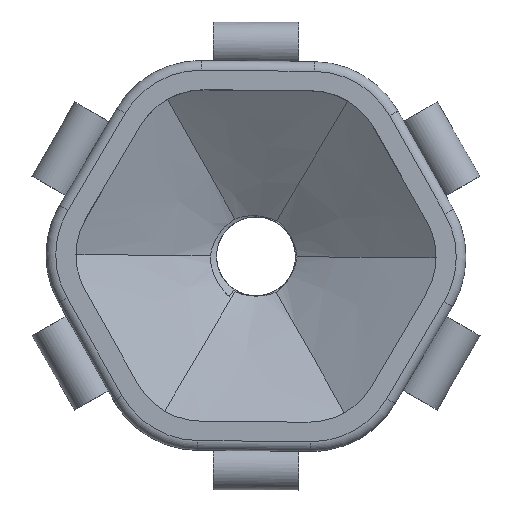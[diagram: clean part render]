
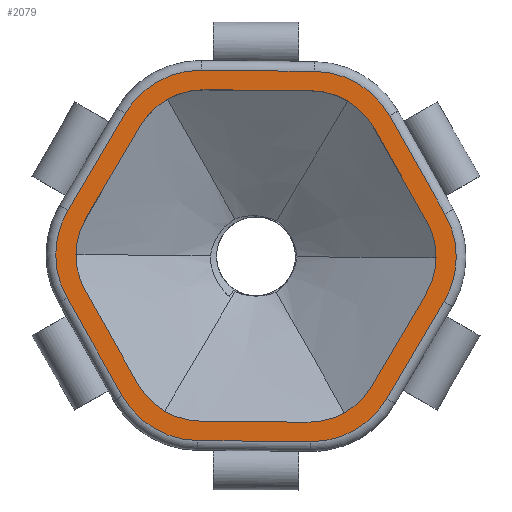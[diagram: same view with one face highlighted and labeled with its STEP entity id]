
A CAD part, top view. The second image highlights one B-rep face of the part: STEP entity #2079.
In plain terms, the highlighted planar face has unit normal (0, 0, 1).
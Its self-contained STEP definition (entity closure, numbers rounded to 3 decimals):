
#88=FACE_BOUND('',#372,.T.);
#118=PLANE('',#2290);
#236=FACE_OUTER_BOUND('',#371,.T.);
#371=EDGE_LOOP('',(#1830,#1831,#1832,#1833,#1834,#1835,#1836,#1837,#1838,
#1839,#1840,#1841));
#372=EDGE_LOOP('',(#1842,#1843,#1844,#1845,#1846,#1847,#1848,#1849,#1850,
#1851,#1852,#1853));
#573=CIRCLE('',#2233,7.5);
#574=CIRCLE('',#2236,7.5);
#575=CIRCLE('',#2239,7.5);
#576=CIRCLE('',#2242,7.5);
#577=CIRCLE('',#2245,7.5);
#578=CIRCLE('',#2248,7.5);
#587=CIRCLE('',#2266,9.);
#589=CIRCLE('',#2269,9.);
#591=CIRCLE('',#2272,9.);
#593=CIRCLE('',#2275,9.);
#595=CIRCLE('',#2278,9.);
#598=CIRCLE('',#2282,9.);
#617=LINE('',#5430,#707);
#626=LINE('',#5476,#716);
#635=LINE('',#5522,#725);
#644=LINE('',#5568,#734);
#653=LINE('',#5614,#743);
#657=LINE('',#5817,#747);
#662=LINE('',#5828,#752);
#665=LINE('',#5836,#755);
#668=LINE('',#5858,#758);
#671=LINE('',#5887,#761);
#682=LINE('',#5945,#772);
#688=LINE('',#5978,#778);
#707=VECTOR('',#2449,10.);
#716=VECTOR('',#2486,10.);
#725=VECTOR('',#2523,10.);
#734=VECTOR('',#2560,10.);
#743=VECTOR('',#2597,10.);
#747=VECTOR('',#2609,10.);
#752=VECTOR('',#2620,10.);
#755=VECTOR('',#2629,10.);
#758=VECTOR('',#2638,10.);
#761=VECTOR('',#2647,10.);
#772=VECTOR('',#2692,10.);
#778=VECTOR('',#2752,10.);
#886=VERTEX_POINT('',#5427);
#887=VERTEX_POINT('',#5429);
#900=VERTEX_POINT('',#5473);
#901=VERTEX_POINT('',#5475);
#914=VERTEX_POINT('',#5519);
#915=VERTEX_POINT('',#5521);
#928=VERTEX_POINT('',#5565);
#929=VERTEX_POINT('',#5567);
#942=VERTEX_POINT('',#5611);
#943=VERTEX_POINT('',#5613);
#947=VERTEX_POINT('',#5627);
#948=VERTEX_POINT('',#5629);
#953=VERTEX_POINT('',#5816);
#954=VERTEX_POINT('',#5820);
#955=VERTEX_POINT('',#5822);
#956=VERTEX_POINT('',#5826);
#957=VERTEX_POINT('',#5830);
#958=VERTEX_POINT('',#5834);
#960=VERTEX_POINT('',#5845);
#962=VERTEX_POINT('',#5856);
#965=VERTEX_POINT('',#5868);
#967=VERTEX_POINT('',#5885);
#980=VERTEX_POINT('',#5942);
#981=VERTEX_POINT('',#5944);
#1133=EDGE_CURVE('',#886,#887,#617,.T.);
#1152=EDGE_CURVE('',#900,#901,#626,.T.);
#1171=EDGE_CURVE('',#914,#915,#635,.T.);
#1190=EDGE_CURVE('',#928,#929,#644,.T.);
#1209=EDGE_CURVE('',#942,#943,#653,.T.);
#1214=EDGE_CURVE('',#947,#948,#573,.T.);
#1223=EDGE_CURVE('',#953,#948,#657,.T.);
#1226=EDGE_CURVE('',#954,#955,#574,.T.);
#1229=EDGE_CURVE('',#954,#956,#662,.T.);
#1231=EDGE_CURVE('',#957,#956,#575,.T.);
#1233=EDGE_CURVE('',#957,#958,#665,.T.);
#1236=EDGE_CURVE('',#960,#958,#576,.T.);
#1239=EDGE_CURVE('',#960,#962,#668,.T.);
#1242=EDGE_CURVE('',#965,#962,#577,.T.);
#1246=EDGE_CURVE('',#965,#967,#671,.T.);
#1247=EDGE_CURVE('',#953,#967,#578,.T.);
#1269=EDGE_CURVE('',#980,#981,#682,.T.);
#1271=EDGE_CURVE('',#943,#980,#587,.T.);
#1273=EDGE_CURVE('',#929,#942,#589,.T.);
#1275=EDGE_CURVE('',#915,#928,#591,.T.);
#1277=EDGE_CURVE('',#901,#914,#593,.T.);
#1279=EDGE_CURVE('',#887,#900,#595,.T.);
#1282=EDGE_CURVE('',#981,#886,#598,.T.);
#1290=EDGE_CURVE('',#947,#955,#688,.T.);
#1830=ORIENTED_EDGE('',*,*,#1269,.F.);
#1831=ORIENTED_EDGE('',*,*,#1271,.F.);
#1832=ORIENTED_EDGE('',*,*,#1209,.F.);
#1833=ORIENTED_EDGE('',*,*,#1273,.F.);
#1834=ORIENTED_EDGE('',*,*,#1190,.F.);
#1835=ORIENTED_EDGE('',*,*,#1275,.F.);
#1836=ORIENTED_EDGE('',*,*,#1171,.F.);
#1837=ORIENTED_EDGE('',*,*,#1277,.F.);
#1838=ORIENTED_EDGE('',*,*,#1152,.F.);
#1839=ORIENTED_EDGE('',*,*,#1279,.F.);
#1840=ORIENTED_EDGE('',*,*,#1133,.F.);
#1841=ORIENTED_EDGE('',*,*,#1282,.F.);
#1842=ORIENTED_EDGE('',*,*,#1223,.T.);
#1843=ORIENTED_EDGE('',*,*,#1214,.F.);
#1844=ORIENTED_EDGE('',*,*,#1290,.T.);
#1845=ORIENTED_EDGE('',*,*,#1226,.F.);
#1846=ORIENTED_EDGE('',*,*,#1229,.T.);
#1847=ORIENTED_EDGE('',*,*,#1231,.F.);
#1848=ORIENTED_EDGE('',*,*,#1233,.T.);
#1849=ORIENTED_EDGE('',*,*,#1236,.F.);
#1850=ORIENTED_EDGE('',*,*,#1239,.T.);
#1851=ORIENTED_EDGE('',*,*,#1242,.F.);
#1852=ORIENTED_EDGE('',*,*,#1246,.T.);
#1853=ORIENTED_EDGE('',*,*,#1247,.F.);
#2079=ADVANCED_FACE('',(#236,#88),#118,.T.);
#2233=AXIS2_PLACEMENT_3D('',#5630,#2604,#2605);
#2236=AXIS2_PLACEMENT_3D('',#5823,#2614,#2615);
#2239=AXIS2_PLACEMENT_3D('',#5832,#2624,#2625);
#2242=AXIS2_PLACEMENT_3D('',#5847,#2633,#2634);
#2245=AXIS2_PLACEMENT_3D('',#5870,#2642,#2643);
#2248=AXIS2_PLACEMENT_3D('',#5889,#2650,#2651);
#2266=AXIS2_PLACEMENT_3D('',#5948,#2697,#2698);
#2269=AXIS2_PLACEMENT_3D('',#5951,#2703,#2704);
#2272=AXIS2_PLACEMENT_3D('',#5954,#2709,#2710);
#2275=AXIS2_PLACEMENT_3D('',#5957,#2715,#2716);
#2278=AXIS2_PLACEMENT_3D('',#5960,#2721,#2722);
#2282=AXIS2_PLACEMENT_3D('',#5964,#2729,#2730);
#2290=AXIS2_PLACEMENT_3D('',#5977,#2750,#2751);
#2449=DIRECTION('',(-0.492,0.871,0.));
#2486=DIRECTION('',(0.508,0.861,0.));
#2523=DIRECTION('',(1.,-0.01,0.));
#2560=DIRECTION('',(0.492,-0.871,0.));
#2597=DIRECTION('',(-0.508,-0.861,0.));
#2604=DIRECTION('center_axis',(0.,0.,1.));
#2605=DIRECTION('ref_axis',(-0.508,-0.861,0.));
#2609=DIRECTION('',(-1.,0.01,0.));
#2614=DIRECTION('center_axis',(0.,0.,1.));
#2615=DIRECTION('ref_axis',(-1.,0.01,0.));
#2620=DIRECTION('',(0.508,0.861,0.));
#2624=DIRECTION('center_axis',(0.,0.,1.));
#2625=DIRECTION('ref_axis',(-0.492,0.871,0.));
#2629=DIRECTION('',(1.,-0.01,0.));
#2633=DIRECTION('center_axis',(0.,0.,1.));
#2634=DIRECTION('ref_axis',(0.508,0.861,0.));
#2638=DIRECTION('',(0.492,-0.871,0.));
#2642=DIRECTION('center_axis',(0.,0.,1.));
#2643=DIRECTION('ref_axis',(1.,-0.01,0.));
#2647=DIRECTION('',(-0.508,-0.861,0.));
#2650=DIRECTION('center_axis',(0.,0.,1.));
#2651=DIRECTION('ref_axis',(0.492,-0.871,0.));
#2692=DIRECTION('',(-1.,0.01,0.));
#2697=DIRECTION('center_axis',(0.,0.,-1.));
#2698=DIRECTION('ref_axis',(0.492,-0.871,0.));
#2703=DIRECTION('center_axis',(0.,0.,-1.));
#2704=DIRECTION('ref_axis',(1.,-0.01,0.));
#2709=DIRECTION('center_axis',(0.,0.,-1.));
#2710=DIRECTION('ref_axis',(0.508,0.861,0.));
#2715=DIRECTION('center_axis',(0.,0.,-1.));
#2716=DIRECTION('ref_axis',(-0.492,0.871,0.));
#2721=DIRECTION('center_axis',(0.,0.,-1.));
#2722=DIRECTION('ref_axis',(-1.,0.01,0.));
#2729=DIRECTION('center_axis',(0.,0.,-1.));
#2730=DIRECTION('ref_axis',(-0.508,-0.861,0.));
#2750=DIRECTION('center_axis',(0.,0.,1.));
#2751=DIRECTION('ref_axis',(1.,0.,0.));
#2752=DIRECTION('',(-0.492,0.871,0.));
#5427=CARTESIAN_POINT('',(-13.733,-14.411,0.));
#5429=CARTESIAN_POINT('',(-19.434,-4.312,0.));
#5430=CARTESIAN_POINT('',(-13.739,-14.4,0.));
#5473=CARTESIAN_POINT('',(-19.347,4.687,0.));
#5475=CARTESIAN_POINT('',(-13.451,14.674,0.));
#5476=CARTESIAN_POINT('',(-19.34,4.698,0.));
#5519=CARTESIAN_POINT('',(-5.614,19.098,0.));
#5521=CARTESIAN_POINT('',(5.982,18.986,0.));
#5522=CARTESIAN_POINT('',(-5.602,19.098,0.));
#5565=CARTESIAN_POINT('',(13.733,14.411,0.));
#5567=CARTESIAN_POINT('',(19.434,4.312,0.));
#5568=CARTESIAN_POINT('',(13.739,14.4,0.));
#5611=CARTESIAN_POINT('',(19.347,-4.687,0.));
#5613=CARTESIAN_POINT('',(13.451,-14.674,0.));
#5614=CARTESIAN_POINT('',(19.34,-4.698,0.));
#5627=CARTESIAN_POINT('',(-12.133,-13.177,0.));
#5629=CARTESIAN_POINT('',(-5.674,-16.989,0.));
#5630=CARTESIAN_POINT('Origin',(-5.602,-9.49,0.));
#5816=CARTESIAN_POINT('',(5.345,-17.096,0.));
#5817=CARTESIAN_POINT('',(5.621,-17.098,0.));
#5820=CARTESIAN_POINT('',(-17.478,3.919,0.));
#5822=CARTESIAN_POINT('',(-17.55,-3.58,0.));
#5823=CARTESIAN_POINT('Origin',(-11.019,0.107,0.));
#5826=CARTESIAN_POINT('',(-11.876,13.409,0.));
#5828=CARTESIAN_POINT('',(-17.618,3.681,0.));
#5830=CARTESIAN_POINT('',(-5.345,17.096,0.));
#5832=CARTESIAN_POINT('Origin',(-5.417,9.596,0.));
#5834=CARTESIAN_POINT('',(5.674,16.989,0.));
#5836=CARTESIAN_POINT('',(-5.621,17.098,0.));
#5845=CARTESIAN_POINT('',(12.133,13.177,0.));
#5847=CARTESIAN_POINT('Origin',(5.602,9.49,0.));
#5856=CARTESIAN_POINT('',(17.55,3.58,0.));
#5858=CARTESIAN_POINT('',(11.997,13.417,0.));
#5868=CARTESIAN_POINT('',(17.478,-3.919,0.));
#5870=CARTESIAN_POINT('Origin',(11.019,-0.107,0.));
#5885=CARTESIAN_POINT('',(11.876,-13.409,0.));
#5887=CARTESIAN_POINT('',(17.618,-3.681,0.));
#5889=CARTESIAN_POINT('Origin',(5.417,-9.596,0.));
#5942=CARTESIAN_POINT('',(5.614,-19.098,0.));
#5944=CARTESIAN_POINT('',(-5.982,-18.986,0.));
#5945=CARTESIAN_POINT('',(5.602,-19.098,0.));
#5948=CARTESIAN_POINT('Origin',(5.701,-10.099,0.));
#5951=CARTESIAN_POINT('Origin',(11.596,-0.112,0.));
#5954=CARTESIAN_POINT('Origin',(5.895,9.987,0.));
#5957=CARTESIAN_POINT('Origin',(-5.701,10.099,0.));
#5960=CARTESIAN_POINT('Origin',(-11.596,0.112,0.));
#5964=CARTESIAN_POINT('Origin',(-5.895,-9.987,0.));
#5977=CARTESIAN_POINT('Origin',(0.,0.,0.));
#5978=CARTESIAN_POINT('',(-11.997,-13.417,0.));
